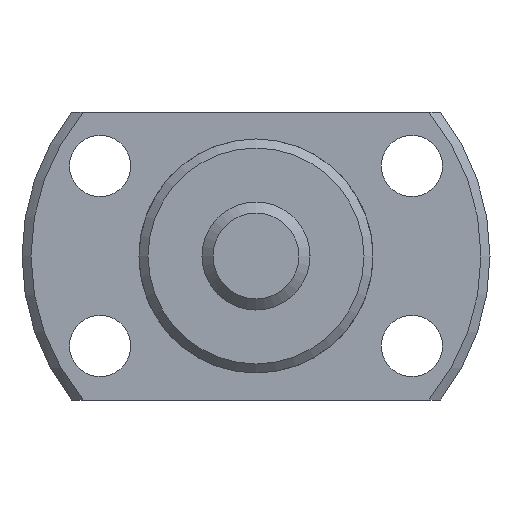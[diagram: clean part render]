
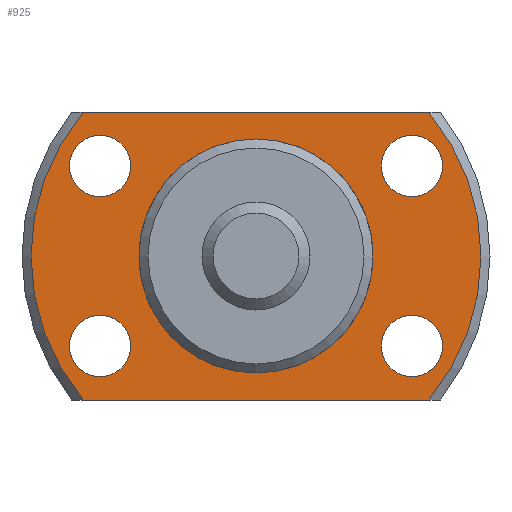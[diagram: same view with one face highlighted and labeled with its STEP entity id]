
A CAD part, left-side view. The second image highlights one B-rep face of the part: STEP entity #925.
In plain terms, the highlighted planar face has unit normal (-1, 0, 0).
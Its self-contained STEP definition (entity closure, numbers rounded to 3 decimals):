
#75=LINE('',#1611,#117);
#76=LINE('',#1615,#118);
#117=VECTOR('',#1281,1000.);
#118=VECTOR('',#1284,1000.);
#268=ORIENTED_EDGE('',*,*,#476,.T.);
#269=ORIENTED_EDGE('',*,*,#477,.T.);
#270=ORIENTED_EDGE('',*,*,#478,.T.);
#271=ORIENTED_EDGE('',*,*,#479,.T.);
#272=ORIENTED_EDGE('',*,*,#465,.F.);
#273=ORIENTED_EDGE('',*,*,#480,.F.);
#274=ORIENTED_EDGE('',*,*,#481,.F.);
#275=ORIENTED_EDGE('',*,*,#482,.F.);
#276=ORIENTED_EDGE('',*,*,#459,.T.);
#459=EDGE_CURVE('',#572,#572,#641,.T.);
#465=EDGE_CURVE('',#577,#578,#644,.T.);
#476=EDGE_CURVE('',#587,#587,#650,.T.);
#477=EDGE_CURVE('',#588,#588,#651,.T.);
#478=EDGE_CURVE('',#589,#589,#652,.T.);
#479=EDGE_CURVE('',#590,#590,#653,.T.);
#480=EDGE_CURVE('',#591,#577,#75,.T.);
#481=EDGE_CURVE('',#592,#591,#654,.T.);
#482=EDGE_CURVE('',#578,#592,#76,.T.);
#572=VERTEX_POINT('',#1554);
#577=VERTEX_POINT('',#1568);
#578=VERTEX_POINT('',#1570);
#587=VERTEX_POINT('',#1604);
#588=VERTEX_POINT('',#1606);
#589=VERTEX_POINT('',#1608);
#590=VERTEX_POINT('',#1610);
#591=VERTEX_POINT('',#1612);
#592=VERTEX_POINT('',#1614);
#641=CIRCLE('',#1038,6.25);
#644=CIRCLE('',#1042,12.5);
#650=CIRCLE('',#1053,1.7);
#651=CIRCLE('',#1054,1.7);
#652=CIRCLE('',#1055,1.7);
#653=CIRCLE('',#1056,1.7);
#654=CIRCLE('',#1057,12.5);
#716=EDGE_LOOP('',(#268));
#717=EDGE_LOOP('',(#269));
#718=EDGE_LOOP('',(#270));
#719=EDGE_LOOP('',(#271));
#720=EDGE_LOOP('',(#272,#273,#274,#275));
#721=EDGE_LOOP('',(#276));
#814=FACE_BOUND('',#716,.T.);
#815=FACE_BOUND('',#717,.T.);
#816=FACE_BOUND('',#718,.T.);
#817=FACE_BOUND('',#719,.T.);
#818=FACE_BOUND('',#720,.T.);
#819=FACE_BOUND('',#721,.T.);
#877=PLANE('',#1052);
#925=ADVANCED_FACE('',(#814,#815,#816,#817,#818,#819),#877,.F.);
#1038=AXIS2_PLACEMENT_3D('',#1553,#1239,#1240);
#1042=AXIS2_PLACEMENT_3D('',#1569,#1249,#1250);
#1052=AXIS2_PLACEMENT_3D('',#1602,#1271,#1272);
#1053=AXIS2_PLACEMENT_3D('',#1603,#1273,#1274);
#1054=AXIS2_PLACEMENT_3D('',#1605,#1275,#1276);
#1055=AXIS2_PLACEMENT_3D('',#1607,#1277,#1278);
#1056=AXIS2_PLACEMENT_3D('',#1609,#1279,#1280);
#1057=AXIS2_PLACEMENT_3D('',#1613,#1282,#1283);
#1239=DIRECTION('',(1.,0.,0.));
#1240=DIRECTION('',(0.,0.,-1.));
#1249=DIRECTION('',(1.,0.,0.));
#1250=DIRECTION('',(0.,0.,-1.));
#1271=DIRECTION('',(1.,0.,0.));
#1272=DIRECTION('',(0.,0.,-1.));
#1273=DIRECTION('',(1.,0.,0.));
#1274=DIRECTION('',(0.,0.,-1.));
#1275=DIRECTION('',(1.,0.,0.));
#1276=DIRECTION('',(0.,0.,-1.));
#1277=DIRECTION('',(1.,0.,0.));
#1278=DIRECTION('',(0.,0.,-1.));
#1279=DIRECTION('',(1.,0.,0.));
#1280=DIRECTION('',(0.,0.,-1.));
#1281=DIRECTION('',(0.,1.,0.));
#1282=DIRECTION('',(1.,0.,0.));
#1283=DIRECTION('',(0.,0.,-1.));
#1284=DIRECTION('',(0.,-1.,0.));
#1553=CARTESIAN_POINT('',(13.,0.,0.));
#1554=CARTESIAN_POINT('',(13.,0.,-6.25));
#1568=CARTESIAN_POINT('',(13.,9.605,-8.));
#1569=CARTESIAN_POINT('',(13.,0.,0.));
#1570=CARTESIAN_POINT('',(13.,9.605,8.));
#1602=CARTESIAN_POINT('',(13.,6.25,0.));
#1603=CARTESIAN_POINT('',(13.,-8.66,-5.));
#1604=CARTESIAN_POINT('',(13.,-8.66,-6.7));
#1605=CARTESIAN_POINT('',(13.,-8.66,5.));
#1606=CARTESIAN_POINT('',(13.,-8.66,3.3));
#1607=CARTESIAN_POINT('',(13.,8.66,-5.));
#1608=CARTESIAN_POINT('',(13.,8.66,-6.7));
#1609=CARTESIAN_POINT('',(13.,8.66,5.));
#1610=CARTESIAN_POINT('',(13.,8.66,3.3));
#1611=CARTESIAN_POINT('',(13.,-18.,-8.));
#1612=CARTESIAN_POINT('',(13.,-9.605,-8.));
#1613=CARTESIAN_POINT('',(13.,0.,0.));
#1614=CARTESIAN_POINT('',(13.,-9.605,8.));
#1615=CARTESIAN_POINT('',(13.,18.,8.));
